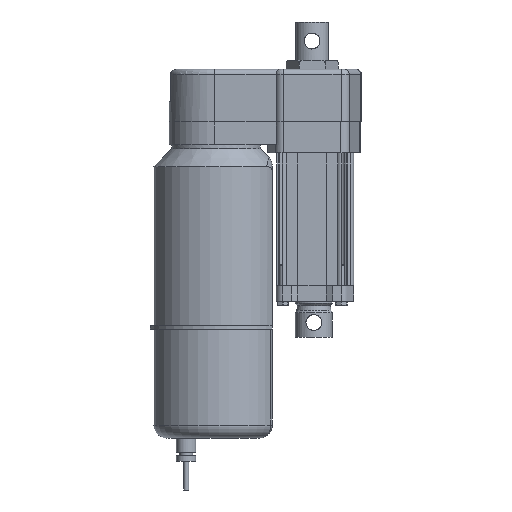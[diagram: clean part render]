
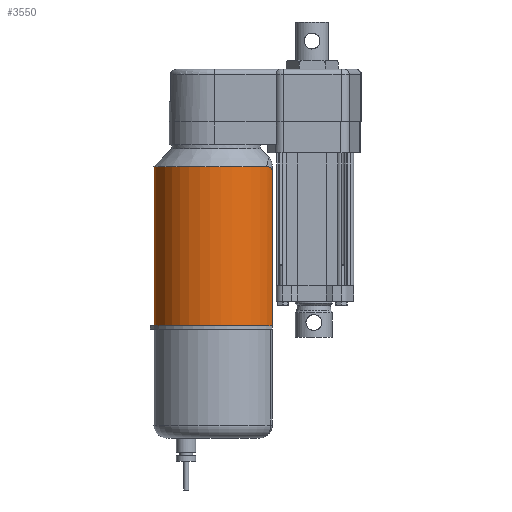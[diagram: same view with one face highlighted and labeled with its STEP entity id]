
A CAD part, left-side view. The second image highlights one B-rep face of the part: STEP entity #3550.
In plain terms, the highlighted cylindrical face has radius 48 mm (diameter 96 mm), a partial arc.
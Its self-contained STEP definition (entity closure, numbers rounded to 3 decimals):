
#495 = CARTESIAN_POINT ( 'NONE',  ( 20.715, 30.6, 48.141 ) ) ;
#525 = CARTESIAN_POINT ( 'NONE',  ( -27.908, 34.847, 53.5 ) ) ;
#566 = CARTESIAN_POINT ( 'NONE',  ( -20.715, 30.6, -69. ) ) ;
#572 = CARTESIAN_POINT ( 'NONE',  ( 20.715, 30.6, -69. ) ) ;
#578 = CARTESIAN_POINT ( 'NONE',  ( 27.908, 34.847, 53.5 ) ) ;
#599 = CARTESIAN_POINT ( 'NONE',  ( -20.715, 30.6, 48.141 ) ) ;
#1224 = LINE ( 'NONE', #8905, #2595 ) ;
#1585 = DIRECTION ( 'NONE',  ( 0., 0., 1. ) ) ;
#1586 = CARTESIAN_POINT ( 'NONE',  ( 0., 73.9, 128.5 ) ) ;
#1587 = DIRECTION ( 'NONE',  ( 0., -1., 0. ) ) ;
#2487 = ORIENTED_EDGE ( 'NONE', *, *, #2684, .F. ) ;
#2488 = ORIENTED_EDGE ( 'NONE', *, *, #2788, .T. ) ;
#2489 = ORIENTED_EDGE ( 'NONE', *, *, #2677, .T. ) ;
#2490 = ORIENTED_EDGE ( 'NONE', *, *, #2791, .T. ) ;
#2491 = ORIENTED_EDGE ( 'NONE', *, *, #2789, .T. ) ;
#2492 = ORIENTED_EDGE ( 'NONE', *, *, #2790, .T. ) ;
#2595 = VECTOR ( 'NONE', #8908, 1000. ) ;
#2608 = CIRCLE ( 'NONE', #3933, 48. ) ;
#2677 = EDGE_CURVE ( 'NONE', #8709, #8786, #1224, .T. ) ;
#2684 = EDGE_CURVE ( 'NONE', #8792, #8739, #2608, .T. ) ;
#2742 = B_SPLINE_CURVE_WITH_KNOTS ( 'NONE', 3,
 ( #9252, #9278, #9279, #9280, #9281, #9282, #9283, #9284, #9285, #9286, #9287, #9288, #9289, #9290, #9291, #9292, #9293, #9294, #9295, #9296 ),
 .UNSPECIFIED., .F., .F.,
 ( 4, 2, 2, 2, 2, 2, 2, 2, 2, 4 ),
 ( 0., 0.001, 0.002, 0.003, 0.003, 0.004, 0.006, 0.007, 0.008, 0.011 ),
 .UNSPECIFIED. ) ;
#2745 = B_SPLINE_CURVE_WITH_KNOTS ( 'NONE', 3,
 ( #9249, #9256, #9257, #9258, #9259, #9260, #9261, #9262, #9263, #9264, #9265, #9266, #9267, #9268, #9269, #9270, #9271, #9272, #9273, #9274 ),
 .UNSPECIFIED., .F., .F.,
 ( 4, 2, 2, 2, 2, 2, 2, 2, 2, 4 ),
 ( 0., 0.003, 0.004, 0.006, 0.007, 0.008, 0.008, 0.009, 0.01, 0.011 ),
 .UNSPECIFIED. ) ;
#2788 = EDGE_CURVE ( 'NONE', #8792, #8709, #2745, .T. ) ;
#2789 = EDGE_CURVE ( 'NONE', #8780, #8812, #5660, .T. ) ;
#2790 = EDGE_CURVE ( 'NONE', #8812, #8739, #2742, .T. ) ;
#2791 = EDGE_CURVE ( 'NONE', #8786, #8780, #5674, .T. ) ;
#3027 = FACE_OUTER_BOUND ( 'NONE', #5005, .T. ) ;
#3031 = CYLINDRICAL_SURFACE ( 'NONE', #5916, 48. ) ;
#3550 = ADVANCED_FACE ( 'NONE', ( #3027 ), #3031, .T. ) ;
#3933 = AXIS2_PLACEMENT_3D ( 'NONE', #8945, #8946, #8947 ) ;
#3986 = AXIS2_PLACEMENT_3D ( 'NONE', #9277, #9297, #9298 ) ;
#5005 = EDGE_LOOP ( 'NONE', ( #2487, #2488, #2489, #2490, #2491, #2492 ) ) ;
#5660 = LINE ( 'NONE', #9275, #5666 ) ;
#5666 = VECTOR ( 'NONE', #9276, 1000. ) ;
#5674 = CIRCLE ( 'NONE', #3986, 48. ) ;
#5916 = AXIS2_PLACEMENT_3D ( 'NONE', #1586, #1585, #1587 ) ;
#8709 = VERTEX_POINT ( 'NONE', #495 ) ;
#8739 = VERTEX_POINT ( 'NONE', #525 ) ;
#8780 = VERTEX_POINT ( 'NONE', #566 ) ;
#8786 = VERTEX_POINT ( 'NONE', #572 ) ;
#8792 = VERTEX_POINT ( 'NONE', #578 ) ;
#8812 = VERTEX_POINT ( 'NONE', #599 ) ;
#8905 = CARTESIAN_POINT ( 'NONE',  ( 20.715, 30.6, 128.5 ) ) ;
#8908 = DIRECTION ( 'NONE',  ( 0., 0., -1. ) ) ;
#8945 = CARTESIAN_POINT ( 'NONE',  ( 0., 73.9, 53.5 ) ) ;
#8946 = DIRECTION ( 'NONE',  ( 0., 0., 1. ) ) ;
#8947 = DIRECTION ( 'NONE',  ( 0., -1., 0. ) ) ;
#9249 = CARTESIAN_POINT ( 'NONE',  ( 27.908, 34.847, 53.5 ) ) ;
#9252 = CARTESIAN_POINT ( 'NONE',  ( -20.715, 30.6, 48.141 ) ) ;
#9256 = CARTESIAN_POINT ( 'NONE',  ( 27.154, 34.308, 53.5 ) ) ;
#9257 = CARTESIAN_POINT ( 'NONE',  ( 26.394, 33.798, 53.43 ) ) ;
#9258 = CARTESIAN_POINT ( 'NONE',  ( 25.248, 33.075, 53.187 ) ) ;
#9259 = CARTESIAN_POINT ( 'NONE',  ( 24.866, 32.84, 53.083 ) ) ;
#9260 = CARTESIAN_POINT ( 'NONE',  ( 24.101, 32.387, 52.814 ) ) ;
#9261 = CARTESIAN_POINT ( 'NONE',  ( 23.725, 32.171, 52.651 ) ) ;
#9262 = CARTESIAN_POINT ( 'NONE',  ( 22.996, 31.765, 52.253 ) ) ;
#9263 = CARTESIAN_POINT ( 'NONE',  ( 22.64, 31.573, 52.015 ) ) ;
#9264 = CARTESIAN_POINT ( 'NONE',  ( 22.153, 31.318, 51.594 ) ) ;
#9265 = CARTESIAN_POINT ( 'NONE',  ( 21.999, 31.238, 51.443 ) ) ;
#9266 = CARTESIAN_POINT ( 'NONE',  ( 21.708, 31.089, 51.116 ) ) ;
#9267 = CARTESIAN_POINT ( 'NONE',  ( 21.57, 31.019, 50.938 ) ) ;
#9268 = CARTESIAN_POINT ( 'NONE',  ( 21.325, 30.897, 50.564 ) ) ;
#9269 = CARTESIAN_POINT ( 'NONE',  ( 21.217, 30.844, 50.367 ) ) ;
#9270 = CARTESIAN_POINT ( 'NONE',  ( 21.03, 30.752, 49.954 ) ) ;
#9271 = CARTESIAN_POINT ( 'NONE',  ( 20.952, 30.714, 49.736 ) ) ;
#9272 = CARTESIAN_POINT ( 'NONE',  ( 20.769, 30.626, 49.07 ) ) ;
#9273 = CARTESIAN_POINT ( 'NONE',  ( 20.715, 30.6, 48.608 ) ) ;
#9274 = CARTESIAN_POINT ( 'NONE',  ( 20.715, 30.6, 48.141 ) ) ;
#9275 = CARTESIAN_POINT ( 'NONE',  ( -20.715, 30.6, 128.5 ) ) ;
#9276 = DIRECTION ( 'NONE',  ( 0., 0., 1. ) ) ;
#9277 = CARTESIAN_POINT ( 'NONE',  ( 0., 73.9, -69. ) ) ;
#9278 = CARTESIAN_POINT ( 'NONE',  ( -20.715, 30.6, 48.607 ) ) ;
#9279 = CARTESIAN_POINT ( 'NONE',  ( -20.768, 30.625, 49.063 ) ) ;
#9280 = CARTESIAN_POINT ( 'NONE',  ( -20.949, 30.713, 49.727 ) ) ;
#9281 = CARTESIAN_POINT ( 'NONE',  ( -21.027, 30.751, 49.947 ) ) ;
#9282 = CARTESIAN_POINT ( 'NONE',  ( -21.213, 30.842, 50.361 ) ) ;
#9283 = CARTESIAN_POINT ( 'NONE',  ( -21.321, 30.895, 50.558 ) ) ;
#9284 = CARTESIAN_POINT ( 'NONE',  ( -21.565, 31.017, 50.931 ) ) ;
#9285 = CARTESIAN_POINT ( 'NONE',  ( -21.703, 31.086, 51.11 ) ) ;
#9286 = CARTESIAN_POINT ( 'NONE',  ( -21.994, 31.235, 51.438 ) ) ;
#9287 = CARTESIAN_POINT ( 'NONE',  ( -22.149, 31.315, 51.59 ) ) ;
#9288 = CARTESIAN_POINT ( 'NONE',  ( -22.634, 31.57, 52.011 ) ) ;
#9289 = CARTESIAN_POINT ( 'NONE',  ( -22.991, 31.762, 52.25 ) ) ;
#9290 = CARTESIAN_POINT ( 'NONE',  ( -23.718, 32.167, 52.648 ) ) ;
#9291 = CARTESIAN_POINT ( 'NONE',  ( -24.091, 32.381, 52.81 ) ) ;
#9292 = CARTESIAN_POINT ( 'NONE',  ( -24.85, 32.831, 53.078 ) ) ;
#9293 = CARTESIAN_POINT ( 'NONE',  ( -25.236, 33.067, 53.184 ) ) ;
#9294 = CARTESIAN_POINT ( 'NONE',  ( -26.391, 33.796, 53.43 ) ) ;
#9295 = CARTESIAN_POINT ( 'NONE',  ( -27.154, 34.308, 53.5 ) ) ;
#9296 = CARTESIAN_POINT ( 'NONE',  ( -27.908, 34.847, 53.5 ) ) ;
#9297 = DIRECTION ( 'NONE',  ( 0., 0., 1. ) ) ;
#9298 = DIRECTION ( 'NONE',  ( 0., -1., 0. ) ) ;
